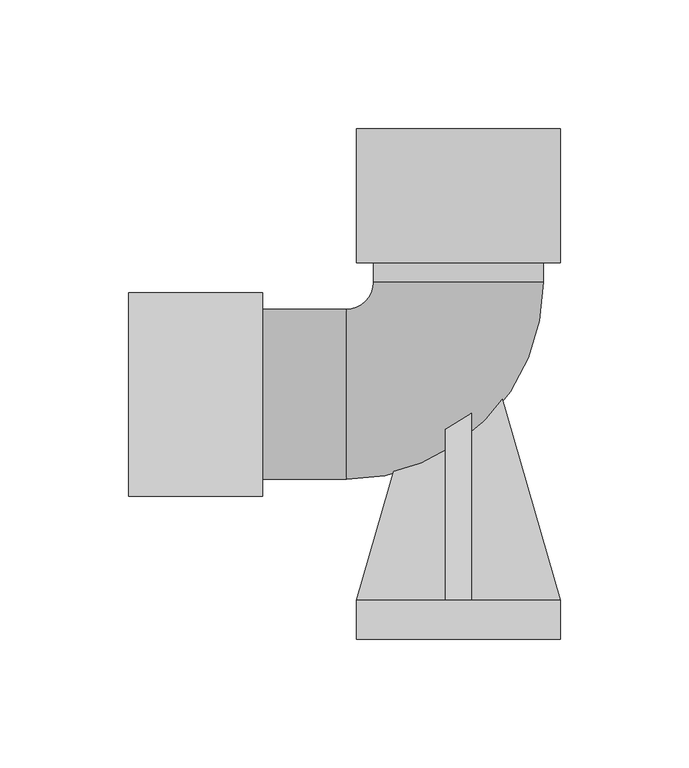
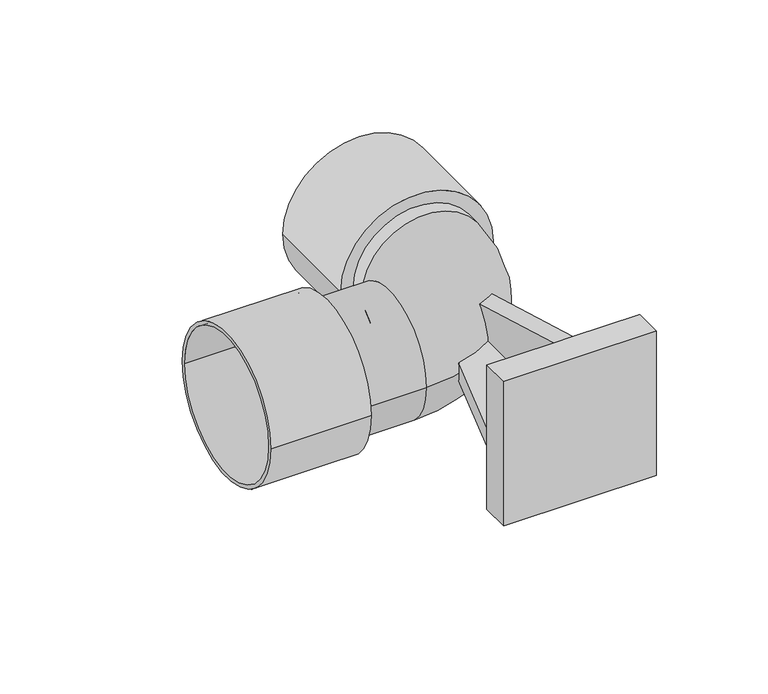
"""IFC4 building model written with IfcOpenShell, lengths in millimetres: duct fitting geometry, NLRS_57_DUF_UN_bend round_M&G : ø75 ø92 with foot."""

from ifc_helpers import new_model, si_unit, point, frame, origin, place, context, project, spatial, polyline, circle_curve, ellipse_curve, trimmed, faceted_brep, source, transform, mapped, element, save
from ifc_brep_helpers import plane_surface, cylinder_surface, revolved_surface, advanced_brep


def duct_fitting_374e486e(model_context):
    return source(origin(), model_context, "Body", "SolidModel", [
        faceted_brep([(39.5, -80.0, -5.0), (39.5, -80.0, -39.5), (5.0, -80.0, -39.5), (5.0, -80.0, -5.0), (-5.0, -80.0, -39.5), (-39.5, -80.0, -39.5), (-39.5, -80.0, -5.0), (-5.0, -80.0, -5.0), (-39.5, -80.0, 5.0), (-39.5, -80.0, 39.5), (-5.0, -80.0, 39.5), (-5.0, -80.0, 5.0), (39.5, -80.0, 39.5), (39.5, -80.0, 5.0), (5.0, -80.0, 5.0), (5.0, -80.0, 39.5), (39.5, -95.0, 39.5), (-39.5, -95.0, 39.5), (-39.5, -95.0, -39.5), (39.5, -95.0, -39.5), (-5.0, 0.0, 16.5), (5.0, 0.0, 16.5), (5.0, 0.0, 5.0), (16.5, 0.0, 5.0), (16.5, 0.0, -5.0), (5.0, 0.0, -5.0), (5.0, 0.0, -16.5), (-5.0, 0.0, -16.5), (-5.0, 0.0, -5.0), (-16.5, 0.0, -5.0), (-16.5, 0.0, 5.0), (-5.0, 0.0, 5.0)], [[[0, 1, 2, 3]], [[4, 5, 6, 7]], [[8, 9, 10, 11]], [[12, 13, 14, 15]], [[16, 17, 18, 19]], [[17, 16, 12, 15, 10, 9]], [[18, 17, 9, 8, 6, 5]], [[19, 18, 5, 4, 2, 1]], [[16, 19, 1, 0, 13, 12]], [[20, 21, 22, 23, 24, 25, 26, 27, 28, 29, 30, 31]], [[20, 31, 11, 10]], [[31, 30, 8, 11]], [[30, 29, 6, 8]], [[29, 28, 7, 6]], [[28, 27, 4, 7]], [[27, 26, 2, 4]], [[26, 25, 3, 2]], [[25, 24, 0, 3]], [[24, 23, 13, 0]], [[23, 22, 14, 13]], [[22, 21, 15, 14]], [[21, 20, 10, 15]]]),
        advanced_brep(
        [(33.0, 43.5, 0.0), (-43.5, -33.0, 0.0), (-43.5, 33.0, 0.0), (-33.0, 43.5, 0.0), (-76.0, 33.0, 0.0), (-76.0, -33.0, 0.0), (33.0, 51.0, 0.0), (-33.0, 51.0, 0.0), (-76.0, 39.5, 0.0), (-76.0, -39.5, 0.0), (-128.0, 39.5, 0.0), (-128.0, -39.5, 0.0), (-128.0, 37.5, 0.0), (-128.0, -37.5, 0.0), (39.5, 51.0, 0.0), (-39.5, 51.0, 0.0), (39.5, 103.0, 0.0), (-39.5, 103.0, 0.0), (37.5, 103.0, 0.0), (-37.5, 103.0, 0.0), (-78.0, -37.5, 0.0), (-78.0, 37.5, 0.0), (37.5, 53.0, 0.0), (-37.5, 53.0, 0.0)],
        [
            (0, 1, circle_curve(frame((-43.5, 43.5, 0.0), z_axis=(0.0, 0.0, -1.0), x_axis=(0.0, -1.0, 0.0)), 76.5)),
            (1, 2, circle_curve(frame((-43.5, 0.0, 0.0), z_axis=(1.0, 0.0, 0.0), x_axis=(0.0, 1.0, 0.0)), 33.0)),
            (2, 3, circle_curve(frame((-43.5, 43.5, 0.0), z_axis=(0.0, 0.0, 1.0), x_axis=(0.0, -1.0, 0.0)), 10.5)),
            (3, 0, circle_curve(frame((0.0, 43.5, 0.0), z_axis=(1.7352785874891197e-12, -1.0, 0.0), x_axis=(-1.0, -1.7352785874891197e-12, 0.0)), 33.0)),
            (0, 3, circle_curve(frame((0.0, 43.5, 0.0), z_axis=(1.7359447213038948e-12, -1.0, 0.0), x_axis=(-1.0, -1.7359447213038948e-12, 0.0)), 33.0)),
            (2, 1, circle_curve(frame((-43.5, 0.0, 0.0), z_axis=(1.0, 0.0, 0.0), x_axis=(0.0, 1.0, 0.0)), 33.0)),
            (2, 4),
            (4, 5, circle_curve(frame((-76.0, 0.0, 0.0), z_axis=(1.0, 0.0, 0.0), x_axis=(0.0, 1.0, 0.0)), 33.0)),
            (5, 1),
            (5, 4, circle_curve(frame((-76.0, 0.0, 0.0), z_axis=(1.0, 0.0, 0.0), x_axis=(0.0, 1.0, 0.0)), 33.0)),
            (0, 6),
            (6, 7, circle_curve(frame((0.0, 51.0, 0.0), z_axis=(0.0, -1.0, 0.0), x_axis=(-1.0, 0.0, 0.0)), 33.0)),
            (7, 3),
            (7, 6, circle_curve(frame((0.0, 51.0, 0.0), z_axis=(0.0, -1.0, 0.0), x_axis=(-1.0, 0.0, 0.0)), 33.0)),
            (8, 9, circle_curve(frame((-76.0, 0.0, 0.0), z_axis=(1.0, 0.0, 0.0), x_axis=(0.0, -1.0, 0.0)), 39.5)),
            (9, 8, circle_curve(frame((-76.0, 0.0, 0.0), z_axis=(1.0, 0.0, 0.0), x_axis=(0.0, -1.0, 0.0)), 39.5)),
            (10, 11, circle_curve(frame((-128.0, 0.0, 0.0), z_axis=(-1.0, 0.0, 0.0), x_axis=(0.0, -1.0, 0.0)), 39.5)),
            (11, 10, circle_curve(frame((-128.0, 0.0, 0.0), z_axis=(-1.0, 0.0, 0.0), x_axis=(0.0, -1.0, 0.0)), 39.5)),
            (12, 13, circle_curve(frame((-128.0, 0.0, 0.0), z_axis=(1.0, 0.0, 0.0), x_axis=(0.0, 1.0, 0.0)), 37.5)),
            (13, 12, circle_curve(frame((-128.0, 0.0, 0.0), z_axis=(1.0, 0.0, 0.0), x_axis=(0.0, 1.0, 0.0)), 37.5)),
            (8, 10),
            (11, 9),
            (14, 15, circle_curve(frame((0.0, 51.0, 0.0), z_axis=(0.0, -1.0, 0.0), x_axis=(-1.0, 0.0, 0.0)), 39.5)),
            (15, 14, circle_curve(frame((0.0, 51.0, 0.0), z_axis=(0.0, -1.0, 0.0), x_axis=(-1.0, 0.0, 0.0)), 39.5)),
            (16, 17, circle_curve(frame((0.0, 103.0, 0.0), z_axis=(0.0, 1.0, 0.0), x_axis=(-1.0, 0.0, 0.0)), 39.5)),
            (17, 16, circle_curve(frame((0.0, 103.0, 0.0), z_axis=(0.0, 1.0, 0.0), x_axis=(-1.0, 0.0, 0.0)), 39.5)),
            (18, 19, circle_curve(frame((0.0, 103.0, 0.0), z_axis=(0.0, -1.0, 0.0), x_axis=(-1.0, 0.0, 0.0)), 37.5)),
            (19, 18, circle_curve(frame((0.0, 103.0, 0.0), z_axis=(0.0, -1.0, 0.0), x_axis=(-1.0, 0.0, 0.0)), 37.5)),
            (14, 16),
            (17, 15),
            (20, 21, circle_curve(frame((-78.0, 0.0, 0.0), z_axis=(-1.0, 0.0, 0.0), x_axis=(0.0, 1.0, 0.0)), 37.5)),
            (21, 20, circle_curve(frame((-78.0, 0.0, 0.0), z_axis=(-1.0, 0.0, 0.0), x_axis=(0.0, 1.0, 0.0)), 37.5)),
            (20, 13),
            (12, 21),
            (22, 23, circle_curve(frame((0.0, 53.0, 0.0), z_axis=(0.0, 1.0, 0.0), x_axis=(-1.0, 0.0, 0.0)), 37.5)),
            (23, 22, circle_curve(frame((0.0, 53.0, 0.0), z_axis=(0.0, 1.0, 0.0), x_axis=(-1.0, 0.0, 0.0)), 37.5)),
            (23, 19),
            (18, 22),
        ],
        [
            revolved_surface(trimmed(ellipse_curve(frame((-43.5, 0.0, 0.0), z_axis=(-1.0, 0.0, 0.0), x_axis=(0.0, 1.0, 0.0)), 33.0, 33.0), [point((-43.5, 33.0, 0.0))], [point((-43.5, -33.0, 0.0))], True, "CARTESIAN"), (-43.5, 43.5, 0.0), (0.0, 0.0, 1.0)),
            revolved_surface(trimmed(ellipse_curve(frame((-43.5, 0.0, 0.0), z_axis=(-1.0, 0.0, 0.0), x_axis=(0.0, 1.0, 0.0)), 33.0, 33.0), [point((-43.5, -33.0, 0.0))], [point((-43.5, 33.0, 0.0))], True, "CARTESIAN"), (-43.5, 43.5, 0.0), (0.0, 0.0, 1.0)),
            cylinder_surface(frame((-76.0, 0.0, 0.0), z_axis=(-1.0, 0.0, 0.0), x_axis=(0.0, 1.0, 0.0)), 33.0),
            cylinder_surface(frame((0.0, 43.5, 0.0), z_axis=(0.0, -1.0, 0.0), x_axis=(-1.0, 0.0, 0.0)), 33.0),
            plane_surface(frame((-76.0, 0.0, 0.0), z_axis=(1.0, 0.0, 0.0), x_axis=(0.0, 0.0, 1.0))),
            plane_surface(frame((-128.0, 0.0, 0.0), z_axis=(-1.0, 0.0, 0.0), x_axis=(0.0, 0.0, 1.0))),
            cylinder_surface(frame((-76.0, 0.0, 0.0), z_axis=(1.0, 0.0, 0.0), x_axis=(0.0, -1.0, 0.0)), 39.5),
            plane_surface(frame((0.0, 51.0, 0.0), z_axis=(0.0, -1.0, 0.0), x_axis=(0.0, 0.0, 1.0))),
            plane_surface(frame((0.0, 103.0, 0.0), z_axis=(0.0, 1.0, 0.0), x_axis=(0.0, 0.0, 1.0))),
            cylinder_surface(frame((0.0, 51.0, 0.0), z_axis=(0.0, -1.0, 0.0), x_axis=(-1.0, 0.0, 0.0)), 39.5),
            plane_surface(frame((-78.0, 0.0, 0.0), z_axis=(-1.0, 0.0, 0.0), x_axis=(0.0, 0.0, 1.0))),
            revolved_surface(polyline([(-128.0, 37.5, 0.0), (-78.0, 37.5, 0.0)]), (-128.0, 0.0, 0.0), (-1.0, 0.0, 0.0)),
            plane_surface(frame((0.0, 53.0, 0.0), z_axis=(0.0, 1.0, 0.0), x_axis=(0.0, 0.0, 1.0))),
            revolved_surface(polyline([(-37.5, 53.0, 0.0), (-37.5, 103.0, 0.0)]), (0.0, 53.0, 0.0), (0.0, -1.0, 0.0)),
        ],
        [
            (0, [[1, 2, 3, 4]]),
            (1, [[-1, 5, -3, 6]]),
            (2, [[-6, 7, 8, 9]]),
            (2, [[-2, -9, 10, -7]]),
            (3, [[-5, 11, 12, 13]]),
            (3, [[-4, -13, 14, -11]]),
            (4, [[15, 16], [-8, -10]]),
            (5, [[17, 18], [19, 20]]),
            (6, [[-15, 21, -18, 22]]),
            (6, [[-16, -22, -17, -21]]),
            (7, [[23, 24], [-12, -14]]),
            (8, [[25, 26], [27, 28]]),
            (9, [[-23, 29, -26, 30]]),
            (9, [[-24, -30, -25, -29]]),
            (10, [[31, 32]]),
            (11, [[-31, 33, -19, 34]]),
            (11, [[-32, -34, -20, -33]]),
            (12, [[35, 36]]),
            (13, [[-36, 37, -27, 38]]),
            (13, [[-35, -38, -28, -37]]),
        ],
    ),
    ])


if __name__ == "__main__":
    model = new_model("IFC4")
    model_context = context("Model", 3, world=origin())
    ifc_project = project(units=[si_unit("LENGTHUNIT", "METRE", prefix="MILLI")], contexts=[model_context])
    site = spatial("IfcSite", under=ifc_project)
    building = spatial("IfcBuilding", under=site)
    placement = place(None, origin())
    duct_fitting_shape = duct_fitting_374e486e(model_context)
    element("IfcDuctFitting", 1, ObjectType="NLRS_57_DUF_UN_bend round_M&G : ø75 ø92 with foot", at=placement, inside=building, context=model_context, shape_type="MappedRepresentation", body=[
        mapped(duct_fitting_shape, transform((0.0, 0.0, 0.0), x_axis=(1.0, 0.0, 0.0), y_axis=(0.0, 1.0, 0.0), z_axis=(0.0, 0.0, 1.0))),
    ])
    save(model, "model.ifc")
